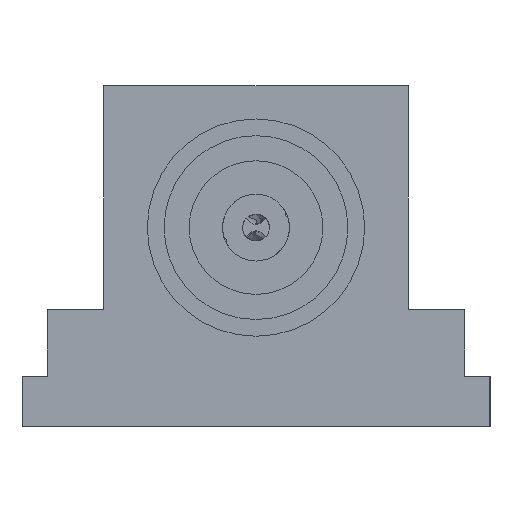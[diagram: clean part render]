
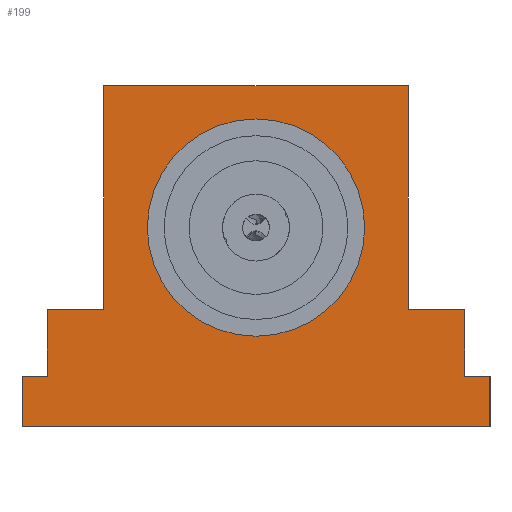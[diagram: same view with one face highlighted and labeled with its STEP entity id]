
A CAD part, front view. The second image highlights one B-rep face of the part: STEP entity #199.
In plain terms, the highlighted planar face has unit normal (0, -1, 0).
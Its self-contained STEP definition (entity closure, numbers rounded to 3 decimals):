
#73 = EDGE_LOOP ( 'NONE', ( #4043, #4274 ) ) ;
#119 = CARTESIAN_POINT ( 'NONE',  ( -79.405, -48.121, 15. ) ) ;
#142 = VERTEX_POINT ( 'NONE', #2908 ) ;
#199 = ADVANCED_FACE ( 'NONE', ( #3933, #824 ), #468, .F. ) ;
#200 = EDGE_CURVE ( 'NONE', #4113, #397, #4295, .T. ) ;
#215 = VERTEX_POINT ( 'NONE', #3527 ) ;
#245 = CARTESIAN_POINT ( 'NONE',  ( -71.905, -48.121, 35. ) ) ;
#272 = LINE ( 'NONE', #4095, #3592 ) ;
#285 = DIRECTION ( 'NONE',  ( 0., 0., -1. ) ) ;
#287 = ORIENTED_EDGE ( 'NONE', *, *, #4377, .T. ) ;
#302 = VERTEX_POINT ( 'NONE', #717 ) ;
#315 = CARTESIAN_POINT ( 'NONE',  ( 53.095, -48.121, 0. ) ) ;
#393 = VECTOR ( 'NONE', #1252, 1000. ) ;
#397 = VERTEX_POINT ( 'NONE', #1765 ) ;
#461 = CARTESIAN_POINT ( 'NONE',  ( 53.095, -48.121, 35. ) ) ;
#462 = VECTOR ( 'NONE', #3010, 1000. ) ;
#468 = PLANE ( 'NONE',  #1566 ) ;
#487 = EDGE_LOOP ( 'NONE', ( #951, #4047, #4189, #1256, #4107, #2770, #2335, #4408, #3949, #728, #2244, #287 ) ) ;
#494 = DIRECTION ( 'NONE',  ( 0., 1., 0. ) ) ;
#542 = EDGE_CURVE ( 'NONE', #397, #2829, #2421, .T. ) ;
#573 = CARTESIAN_POINT ( 'NONE',  ( -79.405, -48.121, 15. ) ) ;
#582 = DIRECTION ( 'NONE',  ( 1., 0., 0. ) ) ;
#682 = CARTESIAN_POINT ( 'NONE',  ( 60.595, -48.121, 15. ) ) ;
#717 = CARTESIAN_POINT ( 'NONE',  ( -71.905, -48.121, 15. ) ) ;
#728 = ORIENTED_EDGE ( 'NONE', *, *, #2498, .F. ) ;
#824 = FACE_OUTER_BOUND ( 'NONE', #487, .T. ) ;
#844 = VERTEX_POINT ( 'NONE', #245 ) ;
#858 = EDGE_CURVE ( 'NONE', #2955, #3936, #955, .T. ) ;
#913 = DIRECTION ( 'NONE',  ( 1., 0., 0. ) ) ;
#951 = ORIENTED_EDGE ( 'NONE', *, *, #3387, .T. ) ;
#955 = LINE ( 'NONE', #4389, #2863 ) ;
#960 = CARTESIAN_POINT ( 'NONE',  ( -54.905, -48.121, 35. ) ) ;
#1096 = LINE ( 'NONE', #1815, #462 ) ;
#1158 = CARTESIAN_POINT ( 'NONE',  ( -79.405, -48.121, 15. ) ) ;
#1230 = LINE ( 'NONE', #2310, #3898 ) ;
#1232 = VERTEX_POINT ( 'NONE', #461 ) ;
#1252 = DIRECTION ( 'NONE',  ( 0., 0., -1. ) ) ;
#1256 = ORIENTED_EDGE ( 'NONE', *, *, #3902, .F. ) ;
#1262 = VECTOR ( 'NONE', #4487, 1000. ) ;
#1320 = VECTOR ( 'NONE', #3469, 1000. ) ;
#1332 = EDGE_CURVE ( 'NONE', #3420, #302, #3538, .T. ) ;
#1414 = VECTOR ( 'NONE', #2566, 1000. ) ;
#1558 = VECTOR ( 'NONE', #3152, 1000. ) ;
#1566 = AXIS2_PLACEMENT_3D ( 'NONE', #1855, #494, #3984 ) ;
#1582 = EDGE_CURVE ( 'NONE', #844, #3886, #1230, .T. ) ;
#1584 = CARTESIAN_POINT ( 'NONE',  ( -9.405, -48.121, 92. ) ) ;
#1610 = EDGE_CURVE ( 'NONE', #1754, #2704, #1936, .T. ) ;
#1627 = CARTESIAN_POINT ( 'NONE',  ( -9.405, -48.121, 59.5 ) ) ;
#1658 = DIRECTION ( 'NONE',  ( 0., 0., 1. ) ) ;
#1732 = EDGE_CURVE ( 'NONE', #2704, #1754, #2325, .T. ) ;
#1746 = CARTESIAN_POINT ( 'NONE',  ( 60.595, -48.121, 0. ) ) ;
#1754 = VERTEX_POINT ( 'NONE', #1584 ) ;
#1765 = CARTESIAN_POINT ( 'NONE',  ( 60.595, -48.121, 15. ) ) ;
#1775 = VECTOR ( 'NONE', #4034, 1000. ) ;
#1815 = CARTESIAN_POINT ( 'NONE',  ( -79.405, -48.121, 0. ) ) ;
#1855 = CARTESIAN_POINT ( 'NONE',  ( -79.405, -48.121, 15. ) ) ;
#1880 = AXIS2_PLACEMENT_3D ( 'NONE', #1920, #3024, #285 ) ;
#1883 = EDGE_CURVE ( 'NONE', #3936, #215, #4411, .T. ) ;
#1920 = CARTESIAN_POINT ( 'NONE',  ( -9.405, -48.121, 59.5 ) ) ;
#1936 = CIRCLE ( 'NONE', #3108, 32.5 ) ;
#2107 = CARTESIAN_POINT ( 'NONE',  ( 36.095, -48.121, 102. ) ) ;
#2130 = LINE ( 'NONE', #3915, #2729 ) ;
#2204 = VECTOR ( 'NONE', #3881, 1000. ) ;
#2244 = ORIENTED_EDGE ( 'NONE', *, *, #1332, .F. ) ;
#2310 = CARTESIAN_POINT ( 'NONE',  ( 0., -48.121, 35. ) ) ;
#2325 = CIRCLE ( 'NONE', #1880, 32.5 ) ;
#2335 = ORIENTED_EDGE ( 'NONE', *, *, #858, .F. ) ;
#2404 = LINE ( 'NONE', #2768, #1558 ) ;
#2421 = LINE ( 'NONE', #682, #1320 ) ;
#2498 = EDGE_CURVE ( 'NONE', #302, #844, #2404, .T. ) ;
#2566 = DIRECTION ( 'NONE',  ( 1., 0., 0. ) ) ;
#2683 = DIRECTION ( 'NONE',  ( 0., 0., -1. ) ) ;
#2692 = LINE ( 'NONE', #573, #1775 ) ;
#2704 = VERTEX_POINT ( 'NONE', #2877 ) ;
#2729 = VECTOR ( 'NONE', #4212, 1000. ) ;
#2768 = CARTESIAN_POINT ( 'NONE',  ( -71.905, -48.121, 0. ) ) ;
#2770 = ORIENTED_EDGE ( 'NONE', *, *, #1883, .F. ) ;
#2829 = VERTEX_POINT ( 'NONE', #1746 ) ;
#2863 = VECTOR ( 'NONE', #913, 1000. ) ;
#2877 = CARTESIAN_POINT ( 'NONE',  ( -9.405, -48.121, 27. ) ) ;
#2908 = CARTESIAN_POINT ( 'NONE',  ( -79.405, -48.121, 0. ) ) ;
#2955 = VERTEX_POINT ( 'NONE', #3587 ) ;
#2984 = CARTESIAN_POINT ( 'NONE',  ( 53.095, -48.121, 15. ) ) ;
#3010 = DIRECTION ( 'NONE',  ( 1., 0., 0. ) ) ;
#3024 = DIRECTION ( 'NONE',  ( 0., -1., 0. ) ) ;
#3108 = AXIS2_PLACEMENT_3D ( 'NONE', #1627, #3699, #2683 ) ;
#3152 = DIRECTION ( 'NONE',  ( 0., 0., 1. ) ) ;
#3387 = EDGE_CURVE ( 'NONE', #142, #2829, #1096, .T. ) ;
#3420 = VERTEX_POINT ( 'NONE', #4397 ) ;
#3469 = DIRECTION ( 'NONE',  ( 0., 0., -1. ) ) ;
#3527 = CARTESIAN_POINT ( 'NONE',  ( 36.095, -48.121, 35. ) ) ;
#3538 = LINE ( 'NONE', #119, #2204 ) ;
#3587 = CARTESIAN_POINT ( 'NONE',  ( -54.905, -48.121, 102. ) ) ;
#3592 = VECTOR ( 'NONE', #1658, 1000. ) ;
#3699 = DIRECTION ( 'NONE',  ( 0., -1., 0. ) ) ;
#3776 = LINE ( 'NONE', #315, #1262 ) ;
#3822 = EDGE_CURVE ( 'NONE', #3886, #2955, #272, .T. ) ;
#3881 = DIRECTION ( 'NONE',  ( 1., 0., 0. ) ) ;
#3886 = VERTEX_POINT ( 'NONE', #960 ) ;
#3898 = VECTOR ( 'NONE', #582, 1000. ) ;
#3902 = EDGE_CURVE ( 'NONE', #1232, #4113, #3776, .T. ) ;
#3915 = CARTESIAN_POINT ( 'NONE',  ( 0., -48.121, 35. ) ) ;
#3933 = FACE_BOUND ( 'NONE', #73, .T. ) ;
#3936 = VERTEX_POINT ( 'NONE', #2107 ) ;
#3949 = ORIENTED_EDGE ( 'NONE', *, *, #1582, .F. ) ;
#3984 = DIRECTION ( 'NONE',  ( 0., 0., 1. ) ) ;
#4034 = DIRECTION ( 'NONE',  ( 0., 0., -1. ) ) ;
#4043 = ORIENTED_EDGE ( 'NONE', *, *, #1610, .F. ) ;
#4047 = ORIENTED_EDGE ( 'NONE', *, *, #542, .F. ) ;
#4095 = CARTESIAN_POINT ( 'NONE',  ( -54.905, -48.121, 0. ) ) ;
#4107 = ORIENTED_EDGE ( 'NONE', *, *, #4464, .F. ) ;
#4113 = VERTEX_POINT ( 'NONE', #2984 ) ;
#4189 = ORIENTED_EDGE ( 'NONE', *, *, #200, .F. ) ;
#4212 = DIRECTION ( 'NONE',  ( 1., 0., 0. ) ) ;
#4274 = ORIENTED_EDGE ( 'NONE', *, *, #1732, .F. ) ;
#4295 = LINE ( 'NONE', #1158, #1414 ) ;
#4377 = EDGE_CURVE ( 'NONE', #3420, #142, #2692, .T. ) ;
#4386 = CARTESIAN_POINT ( 'NONE',  ( 36.095, -48.121, 0. ) ) ;
#4389 = CARTESIAN_POINT ( 'NONE',  ( 0., -48.121, 102. ) ) ;
#4397 = CARTESIAN_POINT ( 'NONE',  ( -79.405, -48.121, 15. ) ) ;
#4408 = ORIENTED_EDGE ( 'NONE', *, *, #3822, .F. ) ;
#4411 = LINE ( 'NONE', #4386, #393 ) ;
#4464 = EDGE_CURVE ( 'NONE', #215, #1232, #2130, .T. ) ;
#4487 = DIRECTION ( 'NONE',  ( 0., 0., -1. ) ) ;
